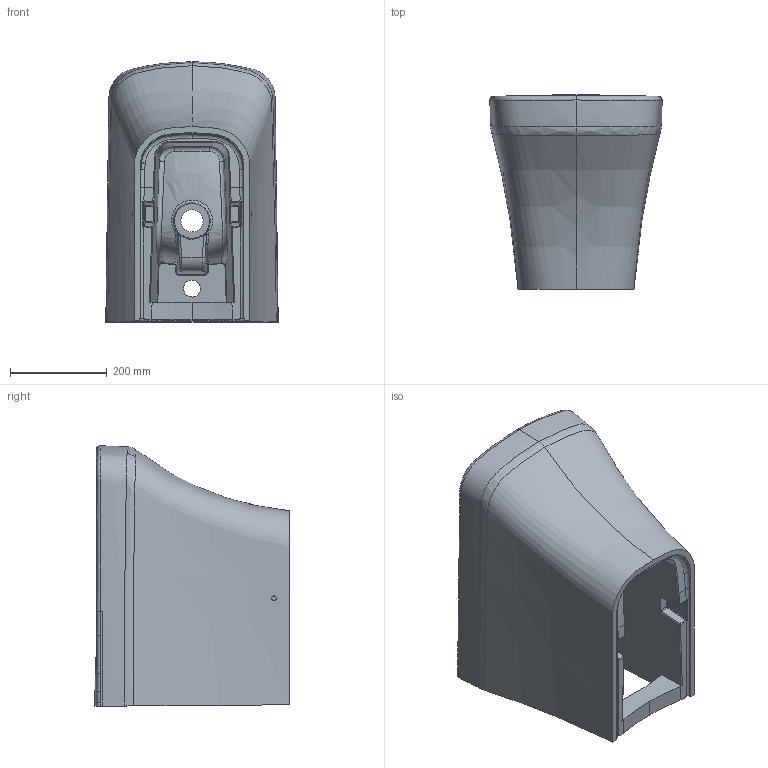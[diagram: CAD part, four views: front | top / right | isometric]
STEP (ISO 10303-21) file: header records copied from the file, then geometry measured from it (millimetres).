
FILE_DESCRIPTION (( 'STEP AP203' ), '1' );
FILE_NAME ('SO500.STEP', '2022-04-07T07:17:15', ( '' ), ( '' ), 'SwSTEP 2.0', 'SolidWorks 2021', '' );
FILE_SCHEMA (( 'CONFIG_CONTROL_DESIGN' ));
Length unit declared in the file: millimetre
Products named in the file (1): SO500
Bounding box: 357.1 x 404.01 x 539.67 mm (x, y, z)
Volume: 21584876.5 mm3; surface area: 1754395.2 mm2
Topology: 2 solids, 3 shells, 302 faces, 780 edges, 478 vertices
Faces by surface type: bspline 156, cylinder 64, plane 50, cone 12, torus 10, sphere 10
Entity records: 110612 total; most frequent: CARTESIAN_POINT 104520, ORIENTED_EDGE 1544, DIRECTION 869, EDGE_CURVE 772, VERTEX_POINT 476, B_SPLINE_CURVE_WITH_KNOTS 363, AXIS2_PLACEMENT_3D 356, EDGE_LOOP 310
